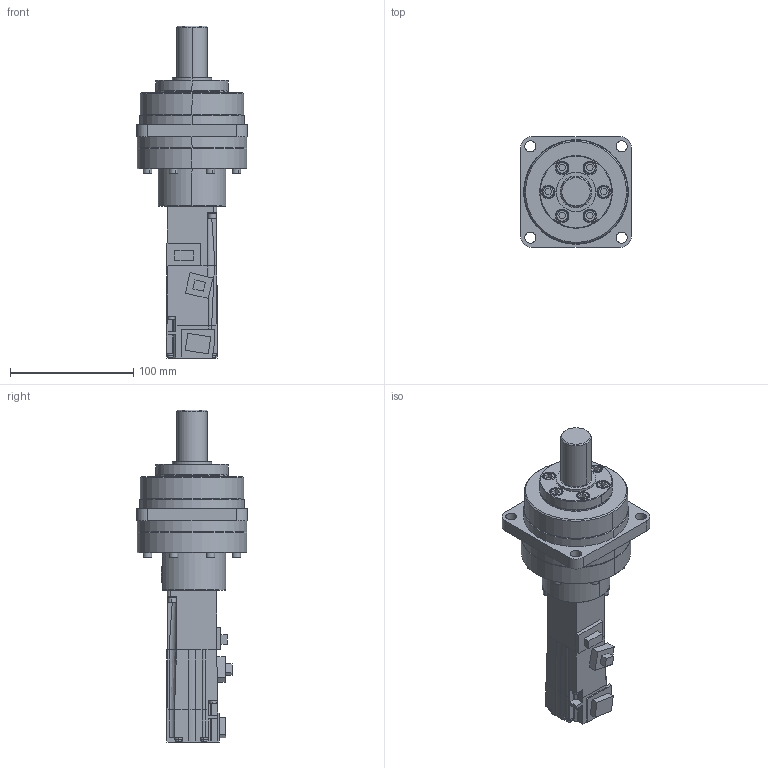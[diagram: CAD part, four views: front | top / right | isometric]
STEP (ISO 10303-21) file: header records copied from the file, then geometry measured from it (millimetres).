
FILE_DESCRIPTION((''),'2;1');
FILE_NAME('HG-KR13BG7_3345_ASM_1','2018-03-13T',('ZW54989'),(''),'CREO PARAMETRIC BY PTC INC, 2016380','CREO PARAMETRIC BY PTC INC, 2016380','');
FILE_SCHEMA(('CONFIG_CONTROL_DESIGN'));
Length unit declared in the file: millimetre
Products named in the file (1): HG-KR13BG7_3345_ASM_1
Bounding box: 90 x 90 x 269.5 mm (x, y, z)
Volume: 698798.3 mm3; surface area: 70759.6 mm2
Topology: 1 solids, 1 shells, 459 faces, 1108 edges, 711 vertices
Faces by surface type: plane 268, cylinder 134, cone 33, torus 16, bspline 8
Entity records: 13809 total; most frequent: CARTESIAN_POINT 2747, DIRECTION 2364, ORIENTED_EDGE 2216, EDGE_CURVE 1108, AXIS2_PLACEMENT_3D 827, VERTEX_POINT 711, VECTOR 710, LINE 710
